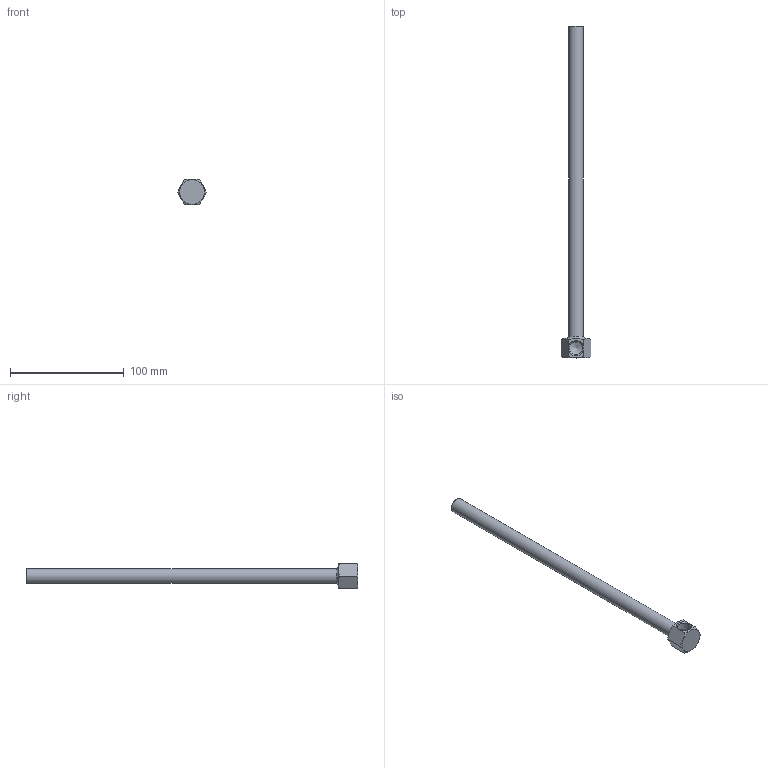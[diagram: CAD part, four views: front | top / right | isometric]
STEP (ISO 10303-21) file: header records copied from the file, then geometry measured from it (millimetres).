
FILE_DESCRIPTION(/* description */ (''),/* implementation_level */ '2;1');
FILE_NAME(/* name */ 'C:/Users/drich/Desktop/14B-11-1_2 v1.step',/* time_stamp */ '2019-12-29T15:19:07-06:00',/* author */ (''),/* organization */ (''),/* preprocessor_version */ 'ST-DEVELOPER v18',/* originating_system */ 'Autodesk Translation Framework v8.12.0.6',/* authorisation */ '');
FILE_SCHEMA (('AUTOMOTIVE_DESIGN { 1 0 10303 214 3 1 1 }'));
Length unit declared in the file: inch
Products named in the file (1): 14B-11-1_2
Bounding box: 25.66 x 292.1 x 22.23 mm (x, y, z)
Volume: 25771.9 mm3; surface area: 21371.4 mm2
Topology: 1 solids, 1 shells, 20 faces, 55 edges, 36 vertices
Faces by surface type: plane 10, cone 6, cylinder 3, torus 1
Full cylindrical faces by diameter (mm): 8.712 x1, 11.668 x1, 13.032 x1
Entity records: 710 total; most frequent: CARTESIAN_POINT 197, ORIENTED_EDGE 108, DIRECTION 93, EDGE_CURVE 54, AXIS2_PLACEMENT_3D 38, VERTEX_POINT 36, EDGE_LOOP 22, FACE_OUTER_BOUND 20
